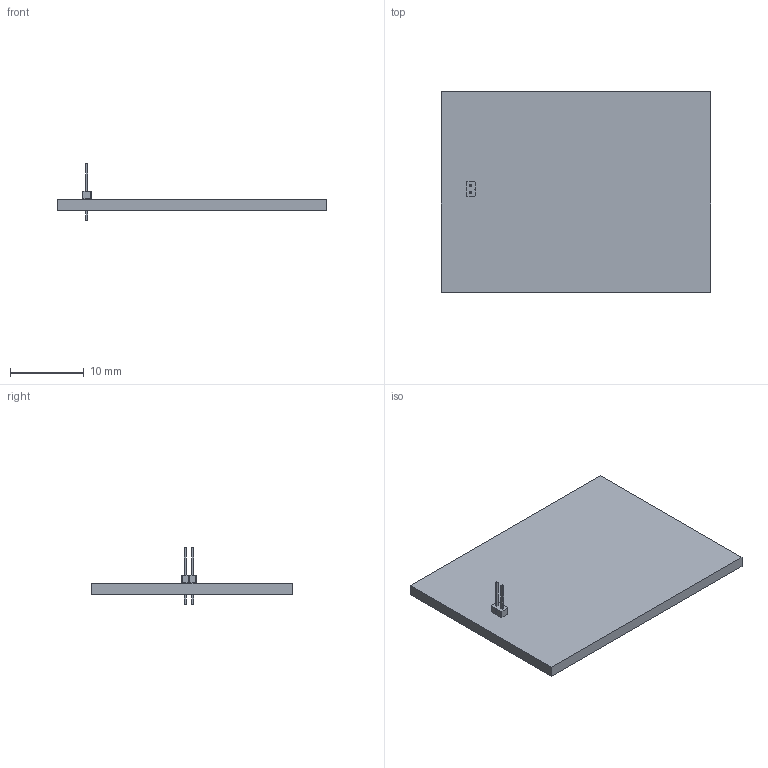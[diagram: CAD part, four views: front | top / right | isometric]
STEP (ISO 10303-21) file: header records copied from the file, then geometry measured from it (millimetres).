
FILE_DESCRIPTION(('KiCad electronic assembly'),'2;1');
FILE_NAME('RAIN.step','2025-09-18T12:42:22',('Pcbnew'),('Kicad'), 'Open CASCADE STEP processor 7.5','KiCad to STEP converter','Unknown' );
FILE_SCHEMA(('AUTOMOTIVE_DESIGN { 1 0 10303 214 1 1 1 1 }'));
Length unit declared in the file: millimetre
Products named in the file (3): RAIN 1; PinHeader_1x02_P1.00mm_Vertical; RAIN_PCB
Assembly tree (2 placements, depth 2):
  RAIN 1
    PinHeader_1x02_P1.00mm_Vertical
    RAIN_PCB
Bounding box: 36.6 x 27.2 x 7.8 mm (x, y, z)
Volume: 1506.4 mm3; surface area: 2215.2 mm2
Topology: 2 solids, 2 shells, 60 faces, 140 edges, 88 vertices
Faces by surface type: plane 58, cylinder 2
Full cylindrical faces by diameter (mm): 0.5 x2
Entity records: 1712 total; most frequent: CARTESIAN_POINT 291, ORIENTED_EDGE 280, DIRECTION 270, EDGE_CURVE 140, LINE 136, VECTOR 136, VERTEX_POINT 88, FACE_BOUND 68
